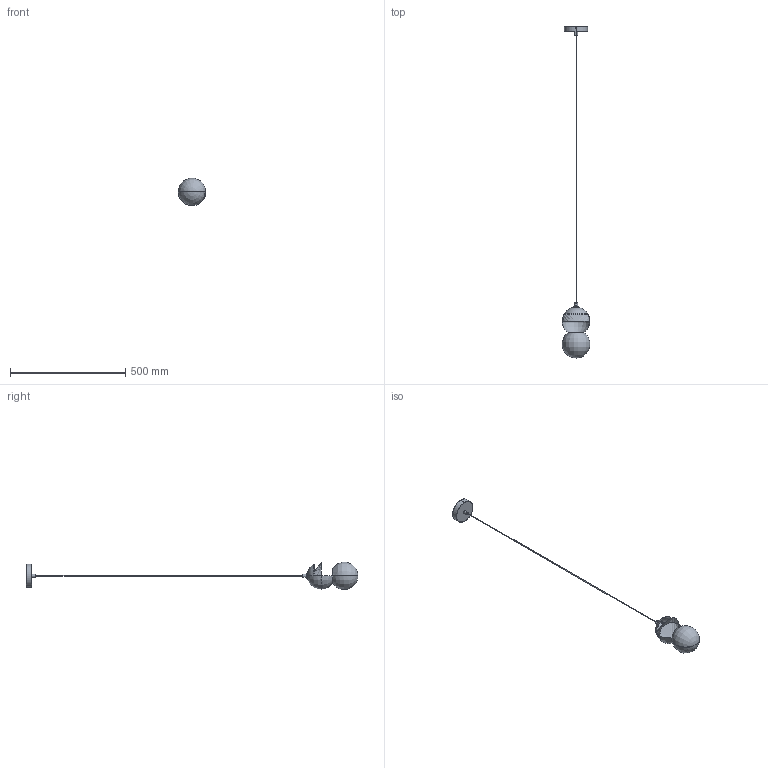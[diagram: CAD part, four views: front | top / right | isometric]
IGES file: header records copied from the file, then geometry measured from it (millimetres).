
Start section: SolidWorks IGES file using analytic representation for surfaces
Global section: file name: F:\燠隴矨\3D\Origo Pendant Lamp.IGS,15; native system: HSolidWorks 2022; preprocessor: SolidWorks 2022; author: MyPC; date: 230412.083536; units: millimetre
Bounding box: 120 x 1440 x 118.56 mm (x, y, z)
Surface area: 196677.6 mm2 (no closed solid volume)
Topology: 0 solids, 0 shells, 34 faces, 772 edges, 765 vertices
Faces by surface type: revolution 20, bspline 14
